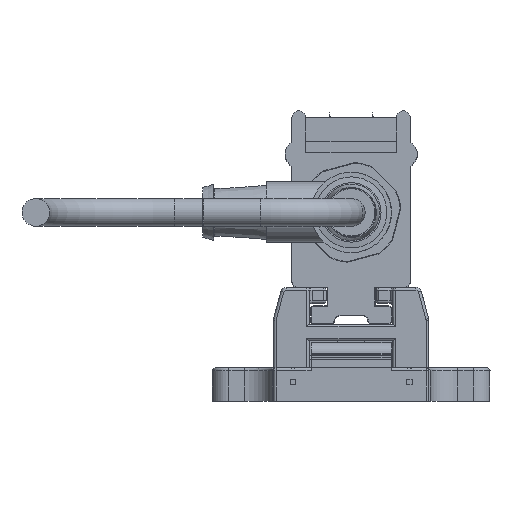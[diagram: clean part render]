
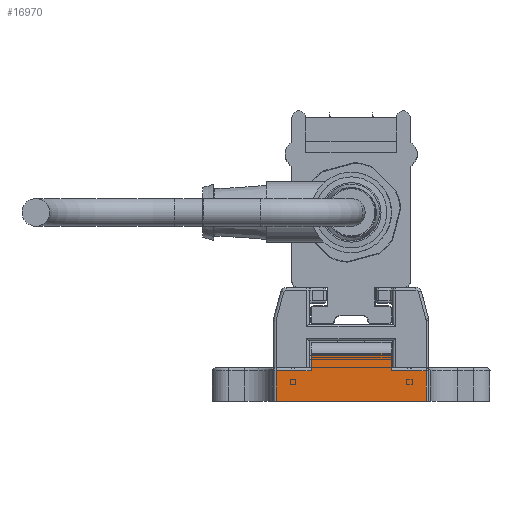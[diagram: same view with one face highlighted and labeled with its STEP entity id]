
A CAD part, left-side view. The second image highlights one B-rep face of the part: STEP entity #16970.
In plain terms, the highlighted planar face has unit normal (-1, 0, 0).
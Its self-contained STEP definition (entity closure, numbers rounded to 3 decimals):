
#16970=ADVANCED_FACE('', (#16980), #16990, .T.);
#90090=AXIS2_PLACEMENT_3D('Ax2Pl3d', #90100, #90110, #90120);
#261770=CARTESIAN_POINT('', (2084.679,-283.662,62.275)
);
#261780=CARTESIAN_POINT('', (2084.679,-256.666,62.275))
;
#261790=CARTESIAN_POINT('', (2084.679,-256.666,62.275))
;
#263770=CARTESIAN_POINT('', (2084.679,-262.964,67.775)
);
#263780=CARTESIAN_POINT('', (2084.679,-262.964,67.775)
);
#263790=CARTESIAN_POINT('', (2084.679,-262.964,70.875)
);
#263830=CARTESIAN_POINT('', (2084.679,-277.364,70.875)
);
#263840=CARTESIAN_POINT('', (2084.679,-277.364,70.875)
);
#263850=CARTESIAN_POINT('', (2084.679,-277.364,67.775)
);
#263960=CARTESIAN_POINT('', (2084.679,-262.964,67.775)
);
#263970=CARTESIAN_POINT('', (2084.679,-256.666,67.775))
;
#263980=CARTESIAN_POINT('', (2084.679,-283.662,67.775)
);
#263990=CARTESIAN_POINT('', (2084.679,-283.662,67.775)
);
#264270=CARTESIAN_POINT('', (2084.679,-283.662,67.775)
);
#90100=CARTESIAN_POINT('HicPkt', (2084.679,-262.964,
70.875));
#264280=CARTESIAN_POINT('', (2084.679,-277.364,70.875)
);
#264290=CARTESIAN_POINT('', (2084.679,-256.666,62.275))
;
#417990=DIRECTION('', (0.,1.,0.));
#418840=DIRECTION('', (0.,0.,-1.));
#418860=DIRECTION('', (0.,0.,1.));
#418910=DIRECTION('', (0.,-1.,0.));
#418920=DIRECTION('', (0.,-1.,0.));
#419060=DIRECTION('', (0.,0.,1.));
#90110=DIRECTION('Axis', (-1.,0.,0.)
);
#90120=DIRECTION('RefDirection', (0.,
0.,-1.));
#419070=DIRECTION('', (0.,-1.,0.));
#419080=DIRECTION('', (0.,0.,-1.));
#456610=EDGE_CURVE('', #456600, #456620, #456630, .T.);
#459870=EDGE_CURVE('', #459880, #459860, #459890, .T.);
#459970=EDGE_CURVE('', #459980, #459960, #459990, .T.);
#460180=EDGE_CURVE('', #460190, #459860, #460200, .T.);
#460220=EDGE_CURVE('', #459980, #460230, #460240, .T.);
#460760=EDGE_CURVE('', #456600, #460230, #460770, .T.);
#460780=EDGE_CURVE('', #459880, #459960, #460790, .T.);
#460800=EDGE_CURVE('', #460190, #456620, #460810, .T.);
#546200=EDGE_LOOP('Edge_loop', (#546210,#546220,#546230,#546240,
#546250,#546260,#546270,#546280));
#16980=FACE_OUTER_BOUND('Face_outer_bound', #546200, .T.);
#456630=LINE('Line', #261780, #617780);
#459890=LINE('Line', #263780, #618630);
#459990=LINE('Line', #263840, #618650);
#460200=LINE('Line', #263960, #618700);
#460240=LINE('Line', #263980, #618710);
#460770=LINE('Line', #264270, #618850);
#460790=LINE('Line', #264280, #618860);
#460810=LINE('Line', #264290, #618870);
#546210=ORIENTED_EDGE('', *, *, #460780, .F.);
#546220=ORIENTED_EDGE('', *, *, #459870, .T.);
#546230=ORIENTED_EDGE('', *, *, #460180, .F.);
#546240=ORIENTED_EDGE('', *, *, #460800, .T.);
#546250=ORIENTED_EDGE('', *, *, #456610, .F.);
#546260=ORIENTED_EDGE('', *, *, #460760, .T.);
#546270=ORIENTED_EDGE('', *, *, #460220, .F.);
#546280=ORIENTED_EDGE('', *, *, #459970, .T.);
#16990=PLANE('Plane', #90090);
#617780=VECTOR('', #417990, 26.996);
#618630=VECTOR('', #418840, 3.1);
#618650=VECTOR('', #418860, 3.1);
#618700=VECTOR('', #418910, 6.298);
#618710=VECTOR('', #418920, 6.298);
#618850=VECTOR('', #419060, 5.5);
#618860=VECTOR('', #419070, 14.4);
#618870=VECTOR('', #419080, 5.5);
#456600=VERTEX_POINT('', #261770);
#456620=VERTEX_POINT('', #261790);
#459860=VERTEX_POINT('', #263770);
#459880=VERTEX_POINT('', #263790);
#459960=VERTEX_POINT('', #263830);
#459980=VERTEX_POINT('', #263850);
#460190=VERTEX_POINT('', #263970);
#460230=VERTEX_POINT('', #263990);
